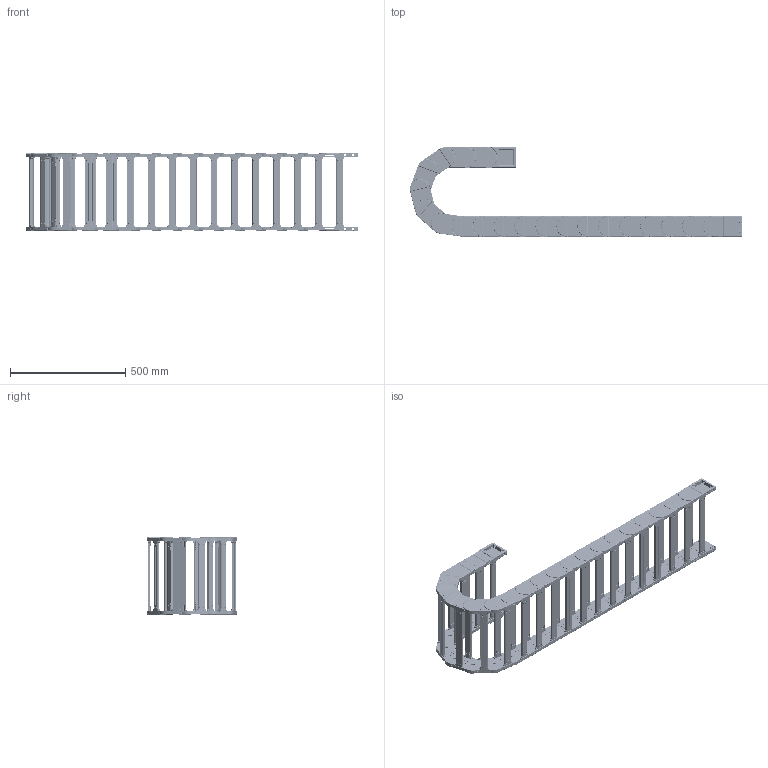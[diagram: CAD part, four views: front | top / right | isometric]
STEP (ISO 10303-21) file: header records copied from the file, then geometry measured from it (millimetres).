
FILE_DESCRIPTION (( 'STEP AP214' ), '1' );
FILE_NAME ('J60Q.1.300S-3D賦凳芞.STEP', '2019-01-10T01:18:33', ( 'Sky123.Org' ), ( 'Sky123.Org' ), 'SwSTEP 2.0', 'SolidWorks 2017', '' );
FILE_SCHEMA (( 'AUTOMOTIVE_DESIGN' ));
Length unit declared in the file: millimetre
Products named in the file (10): J60Q.1.100S-桥式-外接头; J60Q.1-源諉芛-W; J60Q.1.100S-桥式-内接头; 臏簽12X9; J60Q.1-源諉芛-N; J60Q.1.100S-桥式-单节主体; J60-H80-100結え; J60Q.1-翋极-R-2018.3.30; J60Q.1-翋极-L-2018.3.30; J60Q.1.300S-3D賦凳芞
Assembly tree (57 placements, depth 3):
  J60Q.1.300S-3D賦凳芞
    J60Q.1.100S-桥式-单节主体  x19
      J60Q.1-翋极-L-2018.3.30
      J60Q.1-翋极-R-2018.3.30
      J60-H80-100結え
    J60Q.1.100S-桥式-内接头
      J60Q.1-源諉芛-N  x2
      J60-H80-100結え  x2
      臏簽12X9  x12
    J60Q.1.100S-桥式-外接头
      J60Q.1-源諉芛-W  x2
      J60-H80-100結え  x2
      臏簽12X9  x12
Bounding box: 1442.11 x 388.53 x 340 mm (x, y, z)
Volume: 9355794.6 mm3; surface area: 2904824.9 mm2
Topology: 108 solids, 148 shells, 19975 faces, 52506 edges, 33104 vertices
Faces by surface type: plane 9891, cylinder 6288, bspline 1518, torus 1288, sphere 778, cone 212
Entity records: 36164 total; most frequent: CARTESIAN_POINT 8515, ORIENTED_EDGE 4950, DIRECTION 4876, EDGE_CURVE 2475, AXIS2_PLACEMENT_3D 1648, VERTEX_POINT 1583, LINE 1580, VECTOR 1580
